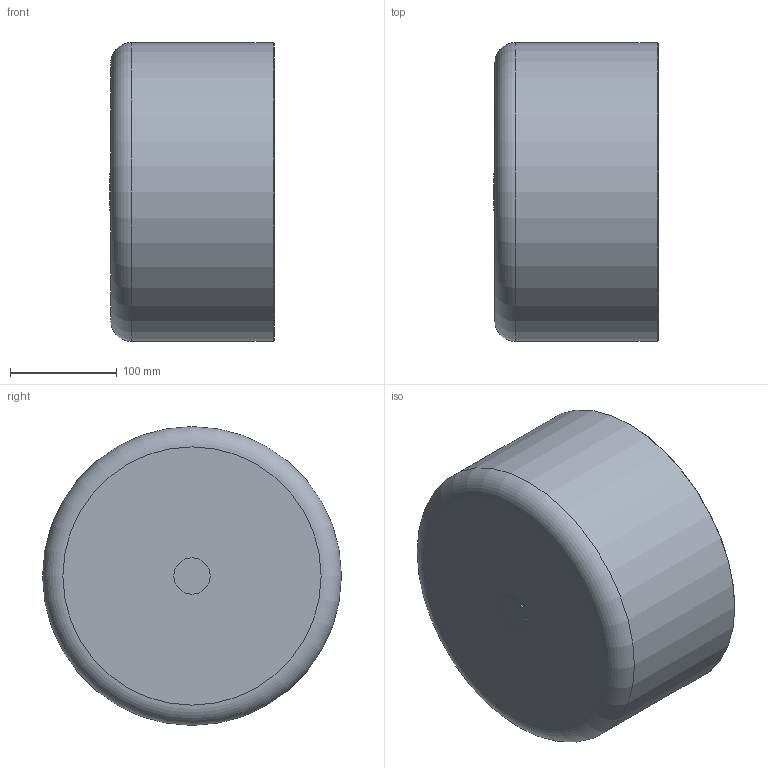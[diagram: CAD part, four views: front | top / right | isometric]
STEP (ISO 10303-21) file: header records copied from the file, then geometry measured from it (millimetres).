
FILE_DESCRIPTION(/* description */ ('Unknown'),/* implementation_level */ '2;1');
FILE_NAME(/* name */ 'CAP280B',/* time_stamp */ '2022-04-02T09:50:42+02:00',/* author */ ('Unknown'),/* organization */ ('Unknown'),/* preprocessor_version */ 'ST-DEVELOPER v18.1',/* originating_system */ 'Solid Edge',/* authorisation */ 'Unknown');
FILE_SCHEMA (('AUTOMOTIVE_DESIGN {1 0 10303 214 3 1 1}'));
Length unit declared in the file: millimetre
Products named in the file (1): CAP280B
Bounding box: 154 x 280 x 280 mm (x, y, z)
Volume: 3290364.1 mm3; surface area: 345770.6 mm2
Topology: 1 solids, 1 shells, 10 faces, 16 edges, 10 vertices
Faces by surface type: plane 4, cylinder 3, torus 2, cone 1
Full cylindrical faces by diameter (mm): 34 x1, 246.8 x1, 280 x1
Entity records: 224 total; most frequent: DIRECTION 40, CARTESIAN_POINT 29, AXIS2_PLACEMENT_3D 20, ORIENTED_EDGE 18, EDGE_LOOP 18, FACE_BOUND 18, ADVANCED_FACE 10, EDGE_CURVE 9
